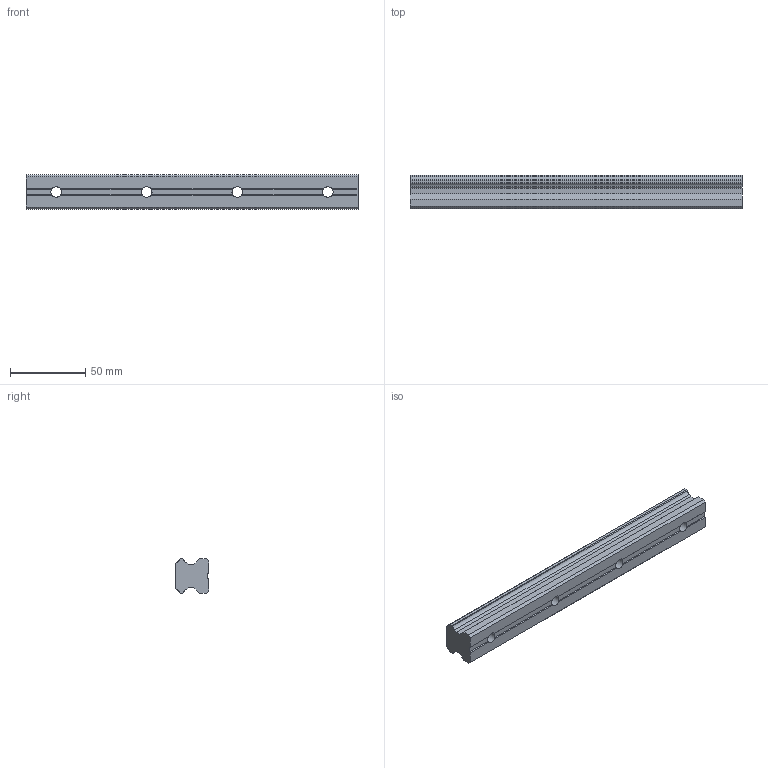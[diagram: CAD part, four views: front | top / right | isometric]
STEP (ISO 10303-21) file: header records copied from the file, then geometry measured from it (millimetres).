
FILE_DESCRIPTION(/* description */ ('STEP AP203'),/* implementation_level */ '2;1');
FILE_NAME(/* name */ 'HSR25-220L(GK) RAIL(20)',/* time_stamp */ '2024-05-21T04:44:12+02:00',/* author */ ('License CC BY-ND 4.0'),/* organization */ ('CADENAS'),/* preprocessor_version */ 'ST-DEVELOPER v19.3',/* originating_system */ 'PARTsolutions',/* authorisation */ ' ');
FILE_SCHEMA (('CONFIG_CONTROL_DESIGN'));
Length unit declared in the file: millimetre
Products named in the file (1): HSR25-220L(GK) RAIL(20)
Bounding box: 220 x 22 x 23 mm (x, y, z)
Volume: 90247.9 mm3; surface area: 23153.5 mm2
Topology: 1 solids, 1 shells, 54 faces, 156 edges, 104 vertices
Faces by surface type: plane 42, cylinder 12
Full cylindrical faces by diameter (mm): 7 x4, 11 x4
Entity records: 1762 total; most frequent: DIRECTION 306, CARTESIAN_POINT 299, ORIENTED_EDGE 288, EDGE_CURVE 144, AXIS2_PLACEMENT_3D 107, VERTEX_POINT 100, LINE 92, VECTOR 92
